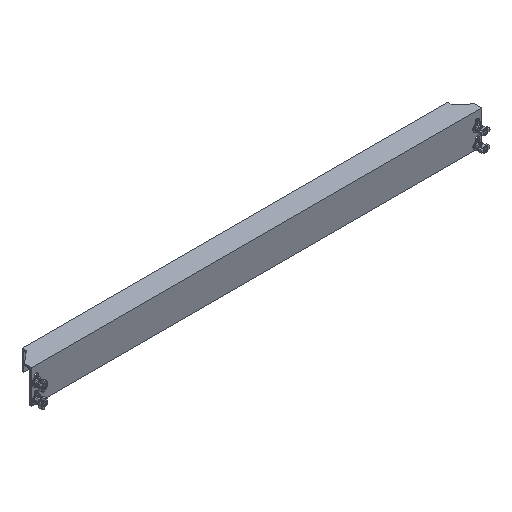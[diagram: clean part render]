
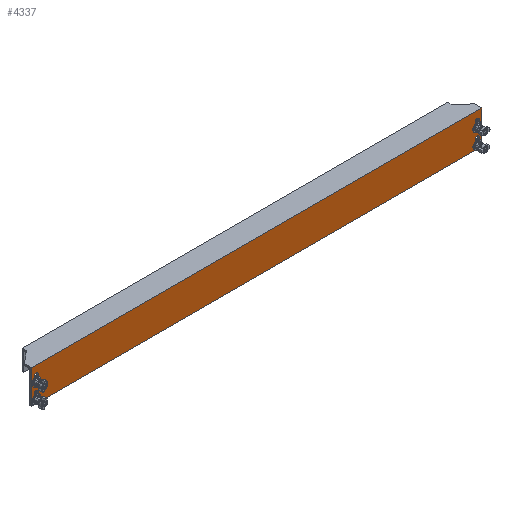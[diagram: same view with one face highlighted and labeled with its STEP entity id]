
A CAD part, isometric view. The second image highlights one B-rep face of the part: STEP entity #4337.
In plain terms, the highlighted planar face has unit normal (0, -1, 0) as drawn and (0, 0, -1) by its records, which use the part's own axes.
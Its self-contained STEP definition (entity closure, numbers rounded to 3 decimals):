
#3282 = VERTEX_POINT('',#3283);
#3283 = CARTESIAN_POINT('',(370.,16.5,-36.));
#3289 = EDGE_CURVE('',#3290,#3282,#3292,.T.);
#3290 = VERTEX_POINT('',#3291);
#3291 = CARTESIAN_POINT('',(-370.,16.5,-36.));
#3292 = LINE('',#3293,#3294);
#3293 = CARTESIAN_POINT('',(0.,16.5,-36.));
#3294 = VECTOR('',#3295,1.);
#3295 = DIRECTION('',(1.,-0.,-0.));
#4216 = VERTEX_POINT('',#4217);
#4217 = CARTESIAN_POINT('',(-370.,12.9,-36.));
#4232 = EDGE_CURVE('',#4216,#3290,#4233,.T.);
#4233 = LINE('',#4234,#4235);
#4234 = CARTESIAN_POINT('',(-370.,12.9,-36.));
#4235 = VECTOR('',#4236,1.);
#4236 = DIRECTION('',(-0.,1.,0.));
#4256 = VERTEX_POINT('',#4257);
#4257 = CARTESIAN_POINT('',(370.,12.9,-36.));
#4263 = EDGE_CURVE('',#4256,#3282,#4264,.T.);
#4264 = LINE('',#4265,#4266);
#4265 = CARTESIAN_POINT('',(370.,0.,-36.));
#4266 = VECTOR('',#4267,1.);
#4267 = DIRECTION('',(0.,1.,0.));
#4279 = EDGE_CURVE('',#4280,#4256,#4282,.T.);
#4280 = VERTEX_POINT('',#4281);
#4281 = CARTESIAN_POINT('',(370.,-38.5,-36.));
#4282 = LINE('',#4283,#4284);
#4283 = CARTESIAN_POINT('',(370.,13.5,-36.));
#4284 = VECTOR('',#4285,1.);
#4285 = DIRECTION('',(-0.,1.,0.));
#4319 = EDGE_CURVE('',#4216,#4320,#4322,.T.);
#4320 = VERTEX_POINT('',#4321);
#4321 = CARTESIAN_POINT('',(-370.,-38.5,-36.));
#4322 = LINE('',#4323,#4324);
#4323 = CARTESIAN_POINT('',(-370.,-38.5,-36.));
#4324 = VECTOR('',#4325,1.);
#4325 = DIRECTION('',(0.,-1.,0.));
#4337 = ADVANCED_FACE('',(#4338,#4374,#4410,#4446,#4482),#4495,.T.);
#4338 = FACE_BOUND('',#4339,.T.);
#4339 = EDGE_LOOP('',(#4340,#4351,#4359,#4368));
#4340 = ORIENTED_EDGE('',*,*,#4341,.F.);
#4341 = EDGE_CURVE('',#4342,#4344,#4346,.T.);
#4342 = VERTEX_POINT('',#4343);
#4343 = CARTESIAN_POINT('',(359.,-23.,-36.));
#4344 = VERTEX_POINT('',#4345);
#4345 = CARTESIAN_POINT('',(366.,-23.,-36.));
#4346 = CIRCLE('',#4347,3.5);
#4347 = AXIS2_PLACEMENT_3D('',#4348,#4349,#4350);
#4348 = CARTESIAN_POINT('',(362.5,-23.,-36.));
#4349 = DIRECTION('',(0.,0.,-1.));
#4350 = DIRECTION('',(0.,1.,0.));
#4351 = ORIENTED_EDGE('',*,*,#4352,.F.);
#4352 = EDGE_CURVE('',#4353,#4342,#4355,.T.);
#4353 = VERTEX_POINT('',#4354);
#4354 = CARTESIAN_POINT('',(359.,-32.,-36.));
#4355 = LINE('',#4356,#4357);
#4356 = CARTESIAN_POINT('',(359.,0.,-36.));
#4357 = VECTOR('',#4358,1.);
#4358 = DIRECTION('',(0.,1.,0.));
#4359 = ORIENTED_EDGE('',*,*,#4360,.F.);
#4360 = EDGE_CURVE('',#4361,#4353,#4363,.T.);
#4361 = VERTEX_POINT('',#4362);
#4362 = CARTESIAN_POINT('',(366.,-32.,-36.));
#4363 = CIRCLE('',#4364,3.5);
#4364 = AXIS2_PLACEMENT_3D('',#4365,#4366,#4367);
#4365 = CARTESIAN_POINT('',(362.5,-32.,-36.));
#4366 = DIRECTION('',(0.,0.,-1.));
#4367 = DIRECTION('',(0.,1.,0.));
#4368 = ORIENTED_EDGE('',*,*,#4369,.F.);
#4369 = EDGE_CURVE('',#4344,#4361,#4370,.T.);
#4370 = LINE('',#4371,#4372);
#4371 = CARTESIAN_POINT('',(366.,0.,-36.));
#4372 = VECTOR('',#4373,1.);
#4373 = DIRECTION('',(0.,-1.,0.));
#4374 = FACE_BOUND('',#4375,.T.);
#4375 = EDGE_LOOP('',(#4376,#4387,#4395,#4404));
#4376 = ORIENTED_EDGE('',*,*,#4377,.F.);
#4377 = EDGE_CURVE('',#4378,#4380,#4382,.T.);
#4378 = VERTEX_POINT('',#4379);
#4379 = CARTESIAN_POINT('',(-366.,-23.,-36.));
#4380 = VERTEX_POINT('',#4381);
#4381 = CARTESIAN_POINT('',(-359.,-23.,-36.));
#4382 = CIRCLE('',#4383,3.5);
#4383 = AXIS2_PLACEMENT_3D('',#4384,#4385,#4386);
#4384 = CARTESIAN_POINT('',(-362.5,-23.,-36.));
#4385 = DIRECTION('',(0.,0.,-1.));
#4386 = DIRECTION('',(0.,1.,0.));
#4387 = ORIENTED_EDGE('',*,*,#4388,.F.);
#4388 = EDGE_CURVE('',#4389,#4378,#4391,.T.);
#4389 = VERTEX_POINT('',#4390);
#4390 = CARTESIAN_POINT('',(-366.,-32.,-36.));
#4391 = LINE('',#4392,#4393);
#4392 = CARTESIAN_POINT('',(-366.,0.,-36.));
#4393 = VECTOR('',#4394,1.);
#4394 = DIRECTION('',(0.,1.,0.));
#4395 = ORIENTED_EDGE('',*,*,#4396,.F.);
#4396 = EDGE_CURVE('',#4397,#4389,#4399,.T.);
#4397 = VERTEX_POINT('',#4398);
#4398 = CARTESIAN_POINT('',(-359.,-32.,-36.));
#4399 = CIRCLE('',#4400,3.5);
#4400 = AXIS2_PLACEMENT_3D('',#4401,#4402,#4403);
#4401 = CARTESIAN_POINT('',(-362.5,-32.,-36.));
#4402 = DIRECTION('',(0.,0.,-1.));
#4403 = DIRECTION('',(0.,1.,0.));
#4404 = ORIENTED_EDGE('',*,*,#4405,.F.);
#4405 = EDGE_CURVE('',#4380,#4397,#4406,.T.);
#4406 = LINE('',#4407,#4408);
#4407 = CARTESIAN_POINT('',(-359.,0.,-36.));
#4408 = VECTOR('',#4409,1.);
#4409 = DIRECTION('',(0.,-1.,0.));
#4410 = FACE_BOUND('',#4411,.T.);
#4411 = EDGE_LOOP('',(#4412,#4423,#4431,#4440));
#4412 = ORIENTED_EDGE('',*,*,#4413,.F.);
#4413 = EDGE_CURVE('',#4414,#4416,#4418,.T.);
#4414 = VERTEX_POINT('',#4415);
#4415 = CARTESIAN_POINT('',(359.,2.,-36.));
#4416 = VERTEX_POINT('',#4417);
#4417 = CARTESIAN_POINT('',(366.,2.,-36.));
#4418 = CIRCLE('',#4419,3.5);
#4419 = AXIS2_PLACEMENT_3D('',#4420,#4421,#4422);
#4420 = CARTESIAN_POINT('',(362.5,2.,-36.));
#4421 = DIRECTION('',(0.,0.,-1.));
#4422 = DIRECTION('',(0.,1.,0.));
#4423 = ORIENTED_EDGE('',*,*,#4424,.F.);
#4424 = EDGE_CURVE('',#4425,#4414,#4427,.T.);
#4425 = VERTEX_POINT('',#4426);
#4426 = CARTESIAN_POINT('',(359.,-7.,-36.));
#4427 = LINE('',#4428,#4429);
#4428 = CARTESIAN_POINT('',(359.,0.,-36.));
#4429 = VECTOR('',#4430,1.);
#4430 = DIRECTION('',(0.,1.,0.));
#4431 = ORIENTED_EDGE('',*,*,#4432,.F.);
#4432 = EDGE_CURVE('',#4433,#4425,#4435,.T.);
#4433 = VERTEX_POINT('',#4434);
#4434 = CARTESIAN_POINT('',(366.,-7.,-36.));
#4435 = CIRCLE('',#4436,3.5);
#4436 = AXIS2_PLACEMENT_3D('',#4437,#4438,#4439);
#4437 = CARTESIAN_POINT('',(362.5,-7.,-36.));
#4438 = DIRECTION('',(0.,0.,-1.));
#4439 = DIRECTION('',(0.,1.,0.));
#4440 = ORIENTED_EDGE('',*,*,#4441,.F.);
#4441 = EDGE_CURVE('',#4416,#4433,#4442,.T.);
#4442 = LINE('',#4443,#4444);
#4443 = CARTESIAN_POINT('',(366.,0.,-36.));
#4444 = VECTOR('',#4445,1.);
#4445 = DIRECTION('',(0.,-1.,0.));
#4446 = FACE_BOUND('',#4447,.T.);
#4447 = EDGE_LOOP('',(#4448,#4459,#4467,#4476));
#4448 = ORIENTED_EDGE('',*,*,#4449,.F.);
#4449 = EDGE_CURVE('',#4450,#4452,#4454,.T.);
#4450 = VERTEX_POINT('',#4451);
#4451 = CARTESIAN_POINT('',(-366.,2.,-36.));
#4452 = VERTEX_POINT('',#4453);
#4453 = CARTESIAN_POINT('',(-359.,2.,-36.));
#4454 = CIRCLE('',#4455,3.5);
#4455 = AXIS2_PLACEMENT_3D('',#4456,#4457,#4458);
#4456 = CARTESIAN_POINT('',(-362.5,2.,-36.));
#4457 = DIRECTION('',(0.,0.,-1.));
#4458 = DIRECTION('',(0.,1.,0.));
#4459 = ORIENTED_EDGE('',*,*,#4460,.F.);
#4460 = EDGE_CURVE('',#4461,#4450,#4463,.T.);
#4461 = VERTEX_POINT('',#4462);
#4462 = CARTESIAN_POINT('',(-366.,-7.,-36.));
#4463 = LINE('',#4464,#4465);
#4464 = CARTESIAN_POINT('',(-366.,0.,-36.));
#4465 = VECTOR('',#4466,1.);
#4466 = DIRECTION('',(0.,1.,0.));
#4467 = ORIENTED_EDGE('',*,*,#4468,.F.);
#4468 = EDGE_CURVE('',#4469,#4461,#4471,.T.);
#4469 = VERTEX_POINT('',#4470);
#4470 = CARTESIAN_POINT('',(-359.,-7.,-36.));
#4471 = CIRCLE('',#4472,3.5);
#4472 = AXIS2_PLACEMENT_3D('',#4473,#4474,#4475);
#4473 = CARTESIAN_POINT('',(-362.5,-7.,-36.));
#4474 = DIRECTION('',(0.,0.,-1.));
#4475 = DIRECTION('',(0.,1.,0.));
#4476 = ORIENTED_EDGE('',*,*,#4477,.F.);
#4477 = EDGE_CURVE('',#4452,#4469,#4478,.T.);
#4478 = LINE('',#4479,#4480);
#4479 = CARTESIAN_POINT('',(-359.,0.,-36.));
#4480 = VECTOR('',#4481,1.);
#4481 = DIRECTION('',(0.,-1.,0.));
#4482 = FACE_BOUND('',#4483,.T.);
#4483 = EDGE_LOOP('',(#4484,#4485,#4486,#4487,#4488,#4489));
#4484 = ORIENTED_EDGE('',*,*,#4319,.F.);
#4485 = ORIENTED_EDGE('',*,*,#4232,.T.);
#4486 = ORIENTED_EDGE('',*,*,#3289,.T.);
#4487 = ORIENTED_EDGE('',*,*,#4263,.F.);
#4488 = ORIENTED_EDGE('',*,*,#4279,.F.);
#4489 = ORIENTED_EDGE('',*,*,#4490,.F.);
#4490 = EDGE_CURVE('',#4320,#4280,#4491,.T.);
#4491 = LINE('',#4492,#4493);
#4492 = CARTESIAN_POINT('',(370.,-38.5,-36.));
#4493 = VECTOR('',#4494,1.);
#4494 = DIRECTION('',(1.,0.,0.));
#4495 = PLANE('',#4496);
#4496 = AXIS2_PLACEMENT_3D('',#4497,#4498,#4499);
#4497 = CARTESIAN_POINT('',(0.,0.,-36.));
#4498 = DIRECTION('',(0.,0.,-1.));
#4499 = DIRECTION('',(0.,1.,0.));
